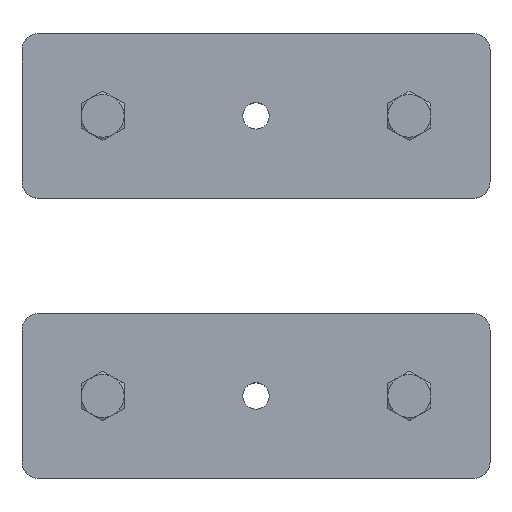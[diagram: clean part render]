
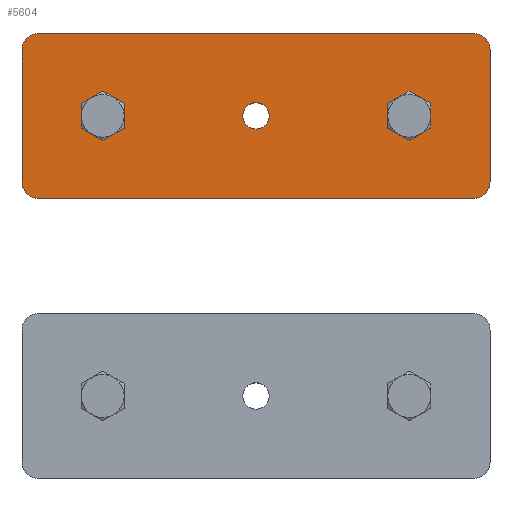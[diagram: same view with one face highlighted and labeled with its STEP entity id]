
A CAD part, top view. The second image highlights one B-rep face of the part: STEP entity #5604.
In plain terms, the highlighted planar face has unit normal (0, 0, 1).
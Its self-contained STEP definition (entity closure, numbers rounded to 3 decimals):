
#577=FACE_BOUND('',#1028,.T.);
#578=FACE_BOUND('',#1029,.T.);
#579=FACE_BOUND('',#1030,.T.);
#617=PLANE('',#5982);
#688=FACE_OUTER_BOUND('',#1027,.T.);
#1027=EDGE_LOOP('',(#3630,#3631,#3632,#3633,#3634,#3635,#3636,#3637));
#1028=EDGE_LOOP('',(#3638));
#1029=EDGE_LOOP('',(#3639));
#1030=EDGE_LOOP('',(#3640));
#1394=LINE('',#7684,#1681);
#1399=LINE('',#7698,#1686);
#1403=LINE('',#7710,#1690);
#1407=LINE('',#7722,#1694);
#1681=VECTOR('',#6455,10.);
#1686=VECTOR('',#6468,10.);
#1690=VECTOR('',#6480,10.);
#1694=VECTOR('',#6492,10.);
#1965=CIRCLE('',#5958,4.);
#1967=CIRCLE('',#5961,4.);
#1969=CIRCLE('',#5964,4.);
#1971=CIRCLE('',#5968,5.);
#1973=CIRCLE('',#5972,5.);
#1975=CIRCLE('',#5976,5.);
#1977=CIRCLE('',#5980,5.);
#2103=VERTEX_POINT('',#7664);
#2105=VERTEX_POINT('',#7670);
#2107=VERTEX_POINT('',#7676);
#2109=VERTEX_POINT('',#7682);
#2110=VERTEX_POINT('',#7683);
#2113=VERTEX_POINT('',#7691);
#2115=VERTEX_POINT('',#7697);
#2117=VERTEX_POINT('',#7703);
#2119=VERTEX_POINT('',#7709);
#2121=VERTEX_POINT('',#7715);
#2123=VERTEX_POINT('',#7721);
#2689=EDGE_CURVE('',#2103,#2103,#1965,.T.);
#2692=EDGE_CURVE('',#2105,#2105,#1967,.T.);
#2695=EDGE_CURVE('',#2107,#2107,#1969,.T.);
#2698=EDGE_CURVE('',#2109,#2110,#1394,.T.);
#2702=EDGE_CURVE('',#2110,#2113,#1971,.T.);
#2705=EDGE_CURVE('',#2113,#2115,#1399,.T.);
#2708=EDGE_CURVE('',#2115,#2117,#1973,.T.);
#2711=EDGE_CURVE('',#2117,#2119,#1403,.T.);
#2714=EDGE_CURVE('',#2119,#2121,#1975,.T.);
#2717=EDGE_CURVE('',#2121,#2123,#1407,.T.);
#2720=EDGE_CURVE('',#2123,#2109,#1977,.T.);
#3630=ORIENTED_EDGE('',*,*,#2720,.T.);
#3631=ORIENTED_EDGE('',*,*,#2698,.T.);
#3632=ORIENTED_EDGE('',*,*,#2702,.T.);
#3633=ORIENTED_EDGE('',*,*,#2705,.T.);
#3634=ORIENTED_EDGE('',*,*,#2708,.T.);
#3635=ORIENTED_EDGE('',*,*,#2711,.T.);
#3636=ORIENTED_EDGE('',*,*,#2714,.T.);
#3637=ORIENTED_EDGE('',*,*,#2717,.T.);
#3638=ORIENTED_EDGE('',*,*,#2689,.T.);
#3639=ORIENTED_EDGE('',*,*,#2692,.T.);
#3640=ORIENTED_EDGE('',*,*,#2695,.T.);
#5604=ADVANCED_FACE('',(#688,#577,#578,#579),#617,.T.);
#5958=AXIS2_PLACEMENT_3D('',#7665,#6434,#6435);
#5961=AXIS2_PLACEMENT_3D('',#7671,#6441,#6442);
#5964=AXIS2_PLACEMENT_3D('',#7677,#6448,#6449);
#5968=AXIS2_PLACEMENT_3D('',#7692,#6461,#6462);
#5972=AXIS2_PLACEMENT_3D('',#7704,#6473,#6474);
#5976=AXIS2_PLACEMENT_3D('',#7716,#6485,#6486);
#5980=AXIS2_PLACEMENT_3D('',#7727,#6497,#6498);
#5982=AXIS2_PLACEMENT_3D('',#7729,#6501,#6502);
#6434=DIRECTION('center_axis',(0.,0.,-1.));
#6435=DIRECTION('ref_axis',(1.,0.,0.));
#6441=DIRECTION('center_axis',(0.,0.,-1.));
#6442=DIRECTION('ref_axis',(1.,0.,0.));
#6448=DIRECTION('center_axis',(0.,0.,-1.));
#6449=DIRECTION('ref_axis',(1.,0.,0.));
#6455=DIRECTION('',(-1.,0.,0.));
#6461=DIRECTION('center_axis',(0.,0.,1.));
#6462=DIRECTION('ref_axis',(0.,1.,0.));
#6468=DIRECTION('',(0.,-1.,0.));
#6473=DIRECTION('center_axis',(0.,0.,1.));
#6474=DIRECTION('ref_axis',(-1.,0.,0.));
#6480=DIRECTION('',(1.,0.,0.));
#6485=DIRECTION('center_axis',(0.,0.,1.));
#6486=DIRECTION('ref_axis',(0.,-1.,0.));
#6492=DIRECTION('',(0.,1.,0.));
#6497=DIRECTION('center_axis',(0.,0.,1.));
#6498=DIRECTION('ref_axis',(1.,0.,0.));
#6501=DIRECTION('center_axis',(0.,0.,1.));
#6502=DIRECTION('ref_axis',(1.,0.,0.));
#7664=CARTESIAN_POINT('',(67.,25.,0.2));
#7665=CARTESIAN_POINT('Origin',(71.,25.,0.2));
#7670=CARTESIAN_POINT('',(20.5,25.,0.2));
#7671=CARTESIAN_POINT('Origin',(24.5,25.,0.2));
#7676=CARTESIAN_POINT('',(113.5,25.,0.2));
#7677=CARTESIAN_POINT('Origin',(117.5,25.,0.2));
#7682=CARTESIAN_POINT('',(137.,50.,0.2));
#7683=CARTESIAN_POINT('',(5.,50.,0.2));
#7684=CARTESIAN_POINT('',(137.,50.,0.2));
#7691=CARTESIAN_POINT('',(0.,45.,0.2));
#7692=CARTESIAN_POINT('Origin',(5.,45.,0.2));
#7697=CARTESIAN_POINT('',(0.,5.,0.2));
#7698=CARTESIAN_POINT('',(0.,45.,0.2));
#7703=CARTESIAN_POINT('',(5.,0.,0.2));
#7704=CARTESIAN_POINT('Origin',(5.,5.,0.2));
#7709=CARTESIAN_POINT('',(137.,0.,0.2));
#7710=CARTESIAN_POINT('',(5.,0.,0.2));
#7715=CARTESIAN_POINT('',(142.,5.,0.2));
#7716=CARTESIAN_POINT('Origin',(137.,5.,0.2));
#7721=CARTESIAN_POINT('',(142.,45.,0.2));
#7722=CARTESIAN_POINT('',(142.,5.,0.2));
#7727=CARTESIAN_POINT('Origin',(137.,45.,0.2));
#7729=CARTESIAN_POINT('Origin',(71.,25.,0.2));
